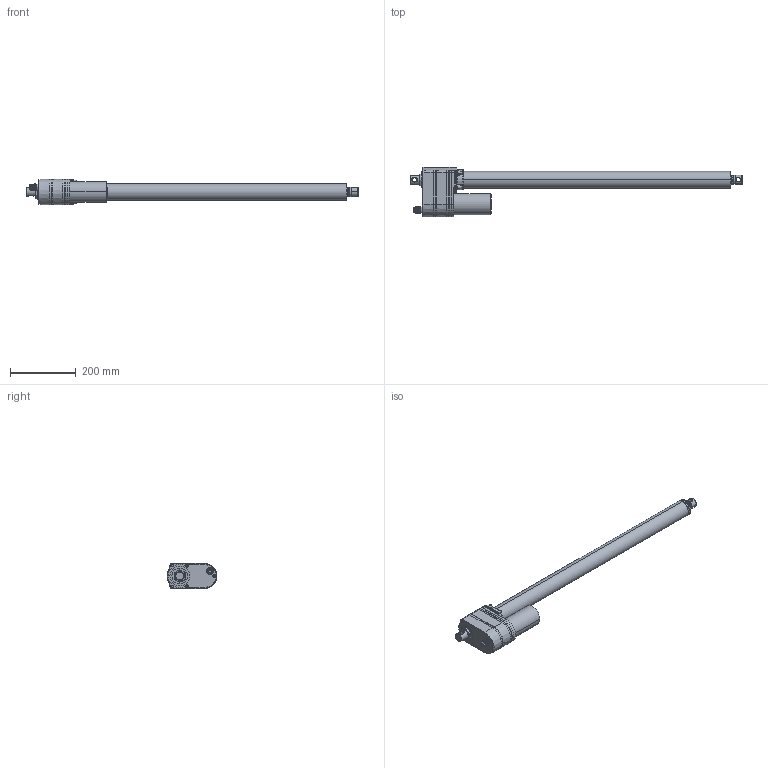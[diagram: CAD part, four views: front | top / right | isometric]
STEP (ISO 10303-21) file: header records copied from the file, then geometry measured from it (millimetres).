
FILE_DESCRIPTION((''),' ');
FILE_NAME('DSZY3-610-LT-LT_POT_2013_03_15.stp',' ',('Karl May'),('MSW'),' ','ACIS 14.0',' ');
FILE_SCHEMA(('automotive_design'));
Length unit declared in the file: inch
Products named in the file (21): DSZY3_LT-POT_ASM|Next assembly relationship#01_ASM|Next assembly relationship#19;19; DSZY3_LT-POT_ASM|Next assembly relationship#01_ASM|Next assembly relationship#20;20; DSZY3_LT-POT_ASM|Next assembly relationship#01_ASM|Next assembly relationship#21;21; DSZY3_LT-POT_ASM|Next assembly relationship#01_ASM|Next assembly relationship#48;48; DSZY3_LT-POT_ASM|Next assembly relationship#02-1_ASM|Next assembly relationship#85;85; DSZY3_LT-POT_ASM|Next assembly relationship#02-1_ASM|Next assembly relationship#91;91; DSZY3_LT-POT_ASM|Next assembly relationship#02-1_ASM|Next assembly relationship#86_BODY_M12;86_BODY_M12; DSZY3_LT-POT_ASM|Next assembly relationship#02-1_ASM|Next assembly relationship#87;87; DSZY3_LT-POT_ASM|Next assembly relationship#02-1_ASM|Next assembly relationship#89;89; DSZY3_LT-POT_ASM|Next assembly relationship#49;49; DSZY3_LT-POT_ASM|Next assembly relationship#48;48; DSZY3_LT-POT_ASM|Next assembly relationship#44;44; DSZY3_LT-POT_ASM|Next assembly relationship#42_A;42_A; DSZY3_LT-POT_ASM|Next assembly relationship#7_833;7_833; DSZY3_LT-POT_ASM|Next assembly relationship#8;8; DSZY3_LT-POT_ASM|Next assembly relationship#6;6; DSZY3_LT-POT_ASM|Next assembly relationship#4;4
Bounding box: 1010.7 x 151.65 x 77.15 mm (x, y, z)
Volume: 1074986.1 mm3; surface area: 511679.7 mm2
Topology: 21 solids, 21 shells, 1036 faces, 2579 edges, 1604 vertices
Faces by surface type: plane 369, cylinder 313, cone 173, bspline 92, torus 79, sphere 10
Entity records: 44432 total; most frequent: CARTESIAN_POINT 11157, DIRECTION 5158, ORIENTED_EDGE 5118, EDGE_CURVE 2559, AXIS2_PLACEMENT_3D 2001, VERTEX_POINT 1604, EDGE_LOOP 1163, LINE 1156
